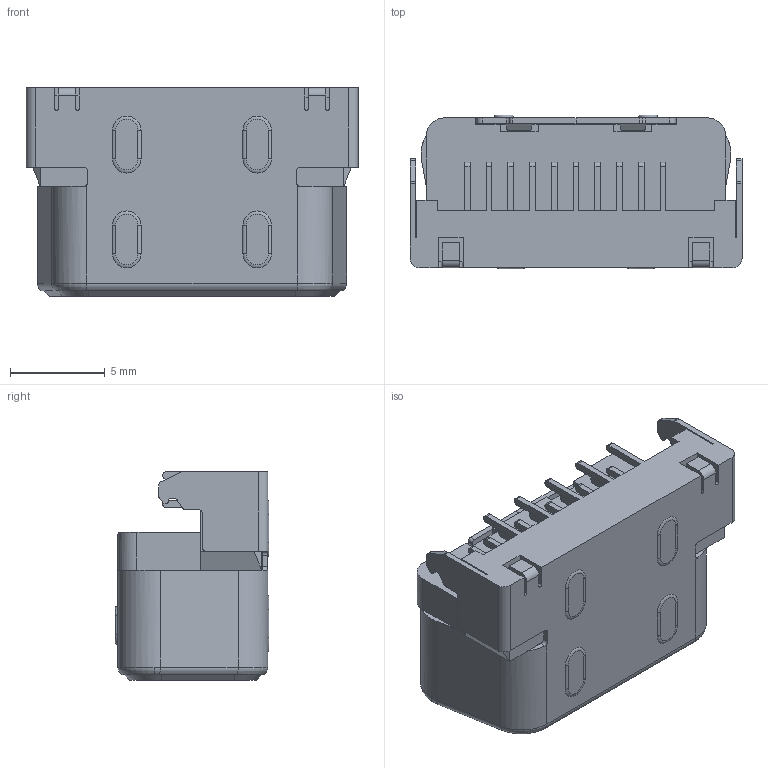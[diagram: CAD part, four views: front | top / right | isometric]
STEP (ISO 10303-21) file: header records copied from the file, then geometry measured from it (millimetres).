
FILE_DESCRIPTION((''),'2;1');
FILE_NAME('VGA_1191512AT001','2018-09-06T',('Administrator'),(''),'PRO/ENGINEER BY PARAMETRIC TECHNOLOGY CORPORATION, 2010280','PRO/ENGINEER BY PARAMETRIC TECHNOLOGY CORPORATION, 2010280','');
FILE_SCHEMA(('CONFIG_CONTROL_DESIGN'));
Length unit declared in the file: millimetre
Products named in the file (1): VGA_1191512AT001
Bounding box: 17.5 x 8.1 x 11 mm (x, y, z)
Volume: 1101.3 mm3; surface area: 1340.8 mm2
Topology: 1 solids, 1 shells, 583 faces, 1527 edges, 985 vertices
Faces by surface type: plane 319, cylinder 175, cone 35, extrusion 25, torus 21, bspline 8
Entity records: 19086 total; most frequent: CARTESIAN_POINT 4418, ORIENTED_EDGE 3054, DIRECTION 3030, EDGE_CURVE 1527, VECTOR 1066, LINE 1041, VERTEX_POINT 985, AXIS2_PLACEMENT_3D 982
